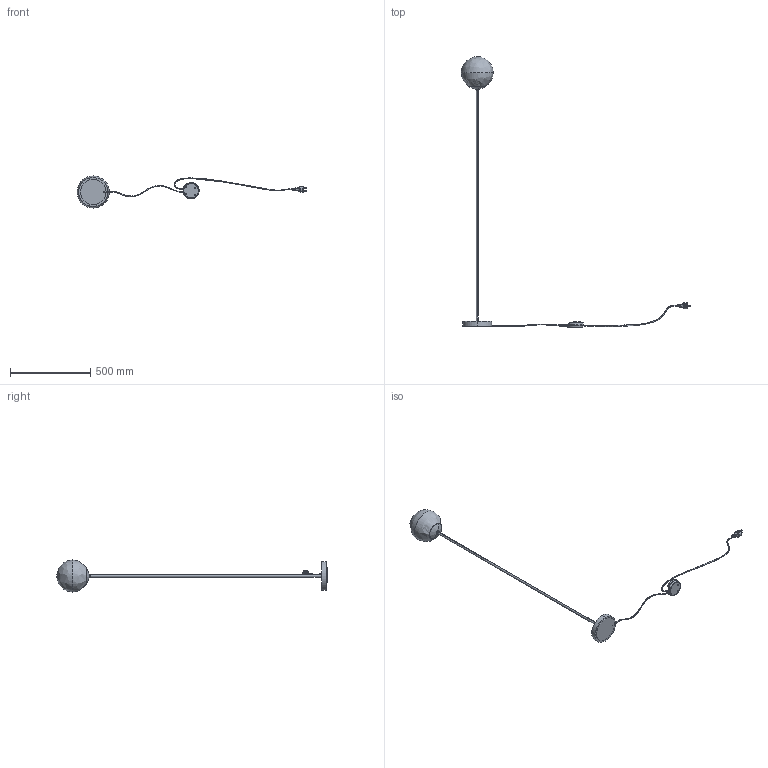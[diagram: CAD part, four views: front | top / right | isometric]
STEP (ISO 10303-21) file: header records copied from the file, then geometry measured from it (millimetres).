
FILE_DESCRIPTION (( 'STEP AP203' ), '1' );
FILE_NAME ('Mod. 1081 H. 1,68_27.STEP', '2023-06-27T12:11:34', ( '' ), ( '' ), 'SwSTEP 2.0', 'SolidWorks 2023', '' );
FILE_SCHEMA (( 'CONFIG_CONTROL_DESIGN' ));
Length unit declared in the file: millimetre
Products named in the file (9): 61-2135-PART1_TUTTO.PRT.1.1; 4; Cavo alimentazione 2; Dimmer Arditi 1012; Schuko-Stecker; Sfera; Mod. 1081 H. 1,68_27; Base con asta 1,68; Cavo alimentazione
Assembly tree (8 placements, depth 2):
  Mod. 1081 H. 1,68_27
    Base con asta 1,68
    4
    61-2135-PART1_TUTTO.PRT.1.1
    Sfera
    Cavo alimentazione
    Dimmer Arditi 1012
    Cavo alimentazione 2
    Schuko-Stecker
Bounding box: 1430.5 x 1687.1 x 200 mm (x, y, z)
Volume: 5415880.6 mm3; surface area: 381217.3 mm2
Topology: 14 solids, 14 shells, 669 faces, 1694 edges, 1055 vertices
Faces by surface type: plane 224, cylinder 171, bspline 155, torus 71, cone 32, sphere 16
Entity records: 40472 total; most frequent: CARTESIAN_POINT 24930, ORIENTED_EDGE 3348, DIRECTION 2648, EDGE_CURVE 1674, VERTEX_POINT 1050, AXIS2_PLACEMENT_3D 1024, EDGE_LOOP 696, FACE_OUTER_BOUND 669
